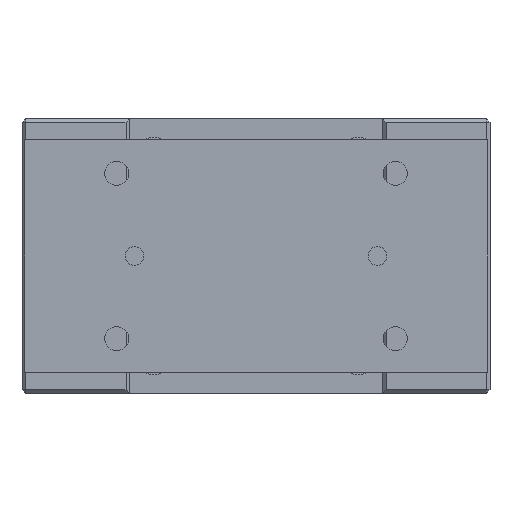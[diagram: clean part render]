
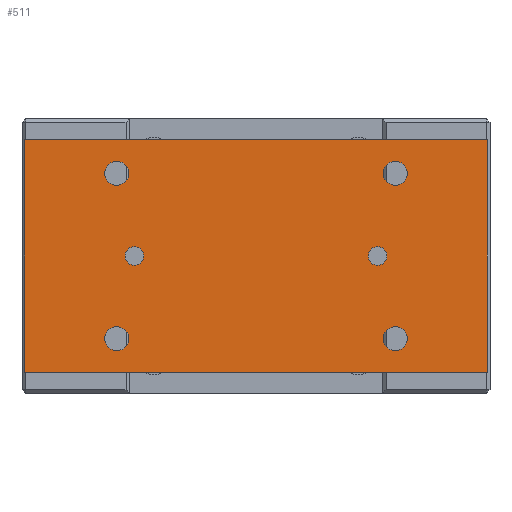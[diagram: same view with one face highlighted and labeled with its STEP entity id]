
A CAD part, left-side view. The second image highlights one B-rep face of the part: STEP entity #511.
In plain terms, the highlighted planar face has unit normal (-1, 0, 0).
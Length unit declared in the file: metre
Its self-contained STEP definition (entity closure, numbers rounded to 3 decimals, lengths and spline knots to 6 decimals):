
#511 = ADVANCED_FACE( '', ( #1194, #1195, #1196, #1197, #1198, #1199, #1200 ), #1201, .T. );
#1194 = FACE_BOUND( '', #2084, .T. );
#1195 = FACE_BOUND( '', #2085, .T. );
#1196 = FACE_BOUND( '', #2086, .T. );
#1197 = FACE_BOUND( '', #2087, .T. );
#1198 = FACE_BOUND( '', #2088, .T. );
#1199 = FACE_BOUND( '', #2089, .T. );
#1200 = FACE_OUTER_BOUND( '', #2090, .T. );
#1201 = PLANE( '', #2091 );
#2084 = EDGE_LOOP( '', ( #3415 ) );
#2085 = EDGE_LOOP( '', ( #3416 ) );
#2086 = EDGE_LOOP( '', ( #3417 ) );
#2087 = EDGE_LOOP( '', ( #3418 ) );
#2088 = EDGE_LOOP( '', ( #3419 ) );
#2089 = EDGE_LOOP( '', ( #3420 ) );
#2090 = EDGE_LOOP( '', ( #3421, #3422, #3423, #3424 ) );
#2091 = AXIS2_PLACEMENT_3D( '', #3425, #3426, #3427 );
#3415 = ORIENTED_EDGE( '', *, *, #4704, .F. );
#3416 = ORIENTED_EDGE( '', *, *, #4654, .T. );
#3417 = ORIENTED_EDGE( '', *, *, #4473, .F. );
#3418 = ORIENTED_EDGE( '', *, *, #4705, .F. );
#3419 = ORIENTED_EDGE( '', *, *, #4706, .F. );
#3420 = ORIENTED_EDGE( '', *, *, #4684, .F. );
#3421 = ORIENTED_EDGE( '', *, *, #4707, .T. );
#3422 = ORIENTED_EDGE( '', *, *, #4481, .T. );
#3423 = ORIENTED_EDGE( '', *, *, #4351, .T. );
#3424 = ORIENTED_EDGE( '', *, *, #4361, .T. );
#3425 = CARTESIAN_POINT( '', ( -0.143, -0.1245, -0.0115 ) );
#3426 = DIRECTION( '', ( -1., 0., 0. ) );
#3427 = DIRECTION( '', ( 0., 0., 1. ) );
#4351 = EDGE_CURVE( '', #5040, #5038, #5041, .T. );
#4361 = EDGE_CURVE( '', #5038, #5055, #5057, .T. );
#4473 = EDGE_CURVE( '', #5240, #5240, #5241, .T. );
#4481 = EDGE_CURVE( '', #5252, #5040, #5253, .T. );
#4654 = EDGE_CURVE( '', #5512, #5512, #5513, .T. );
#4684 = EDGE_CURVE( '', #5555, #5555, #5556, .T. );
#4704 = EDGE_CURVE( '', #5581, #5581, #5582, .T. );
#4705 = EDGE_CURVE( '', #5583, #5583, #5584, .T. );
#4706 = EDGE_CURVE( '', #5585, #5585, #5586, .T. );
#4707 = EDGE_CURVE( '', #5055, #5252, #5587, .T. );
#5038 = VERTEX_POINT( '', #6062 );
#5040 = VERTEX_POINT( '', #6065 );
#5041 = LINE( '', #6066, #6067 );
#5055 = VERTEX_POINT( '', #6087 );
#5057 = LINE( '', #6090, #6091 );
#5240 = VERTEX_POINT( '', #6332 );
#5241 = CIRCLE( '', #6333, 0.0065 );
#5252 = VERTEX_POINT( '', #6349 );
#5253 = LINE( '', #6350, #6351 );
#5512 = VERTEX_POINT( '', #6729 );
#5513 = CIRCLE( '', #6730, 0.005 );
#5555 = VERTEX_POINT( '', #6848 );
#5556 = CIRCLE( '', #6849, 0.0065 );
#5581 = VERTEX_POINT( '', #6913 );
#5582 = CIRCLE( '', #6914, 0.005 );
#5583 = VERTEX_POINT( '', #6915 );
#5584 = CIRCLE( '', #6916, 0.0065 );
#5585 = VERTEX_POINT( '', #6917 );
#5586 = CIRCLE( '', #6918, 0.0065 );
#5587 = LINE( '', #6919, #6920 );
#6062 = CARTESIAN_POINT( '', ( -0.143, 0.1245, -0.1365 ) );
#6065 = CARTESIAN_POINT( '', ( -0.143, 0.1245, -0.0115 ) );
#6066 = CARTESIAN_POINT( '', ( -0.143, 0.1245, -0.0115 ) );
#6067 = VECTOR( '', #7371, 1. );
#6087 = CARTESIAN_POINT( '', ( -0.143, -0.1245, -0.1365 ) );
#6090 = CARTESIAN_POINT( '', ( -0.143, 0.1245, -0.1365 ) );
#6091 = VECTOR( '', #7379, 1. );
#6332 = CARTESIAN_POINT( '', ( -0.143, -0.075, -0.112 ) );
#6333 = AXIS2_PLACEMENT_3D( '', #7510, #7511, #7512 );
#6349 = CARTESIAN_POINT( '', ( -0.143, -0.1245, -0.0115 ) );
#6350 = CARTESIAN_POINT( '', ( -0.143, -0.1245, -0.0115 ) );
#6351 = VECTOR( '', #7518, 1. );
#6729 = CARTESIAN_POINT( '', ( -0.143, 0.0705, -0.074 ) );
#6730 = AXIS2_PLACEMENT_3D( '', #7704, #7705, #7706 );
#6848 = CARTESIAN_POINT( '', ( -0.143, 0.075, -0.023 ) );
#6849 = AXIS2_PLACEMENT_3D( '', #7738, #7739, #7740 );
#6913 = CARTESIAN_POINT( '', ( -0.143, -0.0705, -0.074 ) );
#6914 = AXIS2_PLACEMENT_3D( '', #7756, #7757, #7758 );
#6915 = CARTESIAN_POINT( '', ( -0.143, 0.075, -0.112 ) );
#6916 = AXIS2_PLACEMENT_3D( '', #7759, #7760, #7761 );
#6917 = CARTESIAN_POINT( '', ( -0.143, -0.075, -0.023 ) );
#6918 = AXIS2_PLACEMENT_3D( '', #7762, #7763, #7764 );
#6919 = CARTESIAN_POINT( '', ( -0.143, -0.1245, -0.1365 ) );
#6920 = VECTOR( '', #7765, 1. );
#7371 = DIRECTION( '', ( 0., 0., -1. ) );
#7379 = DIRECTION( '', ( 0., -1., 0. ) );
#7510 = CARTESIAN_POINT( '', ( -0.143, -0.075, -0.1185 ) );
#7511 = DIRECTION( '', ( -1., 0., 0. ) );
#7512 = DIRECTION( '', ( 0., 0., 1. ) );
#7518 = DIRECTION( '', ( 0., 1., 0. ) );
#7704 = CARTESIAN_POINT( '', ( -0.143, 0.0655, -0.074 ) );
#7705 = DIRECTION( '', ( 1., 0., 0. ) );
#7706 = DIRECTION( '', ( 0., 1., 0. ) );
#7738 = CARTESIAN_POINT( '', ( -0.143, 0.075, -0.0295 ) );
#7739 = DIRECTION( '', ( -1., 0., 0. ) );
#7740 = DIRECTION( '', ( 0., 0., 1. ) );
#7756 = CARTESIAN_POINT( '', ( -0.143, -0.0655, -0.074 ) );
#7757 = DIRECTION( '', ( -1., 0., 0. ) );
#7758 = DIRECTION( '', ( 0., -1., 0. ) );
#7759 = CARTESIAN_POINT( '', ( -0.143, 0.075, -0.1185 ) );
#7760 = DIRECTION( '', ( -1., 0., 0. ) );
#7761 = DIRECTION( '', ( 0., 0., 1. ) );
#7762 = CARTESIAN_POINT( '', ( -0.143, -0.075, -0.0295 ) );
#7763 = DIRECTION( '', ( -1., 0., 0. ) );
#7764 = DIRECTION( '', ( 0., 0., 1. ) );
#7765 = DIRECTION( '', ( 0., 0., 1. ) );
